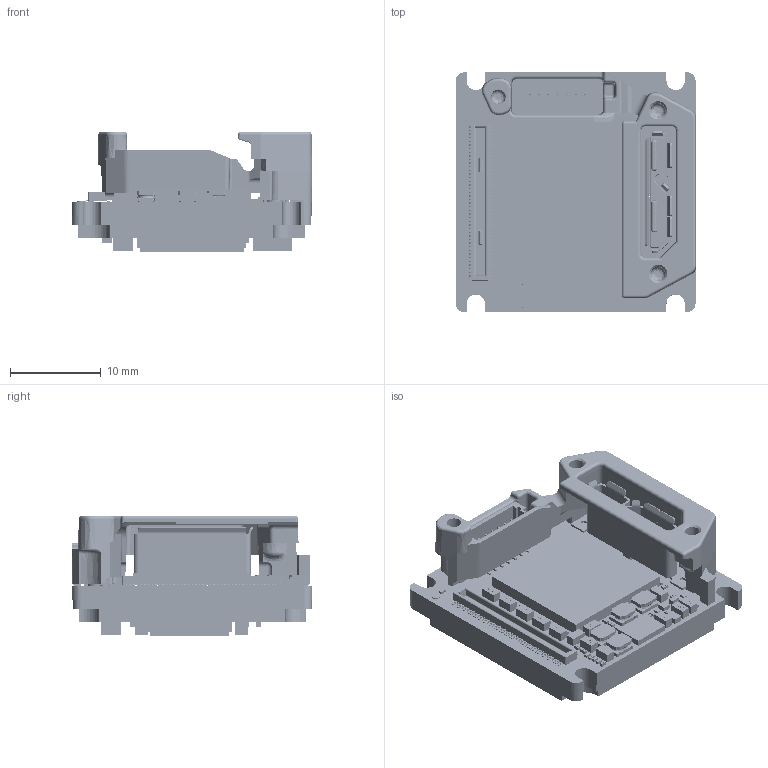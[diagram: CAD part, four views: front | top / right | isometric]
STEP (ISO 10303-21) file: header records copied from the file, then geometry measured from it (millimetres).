
FILE_DESCRIPTION (( 'STEP AP214' ), '1' );
FILE_NAME ('Alvium-USB180-Bare-Board-IMX900.STEP', '2024-03-22T10:03:56', ( '' ), ( '' ), 'SwSTEP 2.0', 'SolidWorks 2021', '' );
FILE_SCHEMA (( 'AUTOMOTIVE_DESIGN' ));
Length unit declared in the file: millimetre
Products named in the file (1): Alvium-USB180-Bare-Board-IMX900
Bounding box: 26.48 x 26.45 x 13.24 mm (x, y, z)
Volume: 3829.1 mm3; surface area: 5478.9 mm2
Topology: 185 solids, 185 shells, 11257 faces, 28320 edges, 18381 vertices
Faces by surface type: plane 6022, bspline 4195, cylinder 936, cone 46, torus 40, sphere 18
Entity records: 696709 total; most frequent: CARTESIAN_POINT 329484, ORIENTED_EDGE 56622, DIRECTION 35849, EDGE_CURVE 28311, VERTEX_POINT 18381, VECTOR 17813, LINE 17813, EDGE_LOOP 12230
